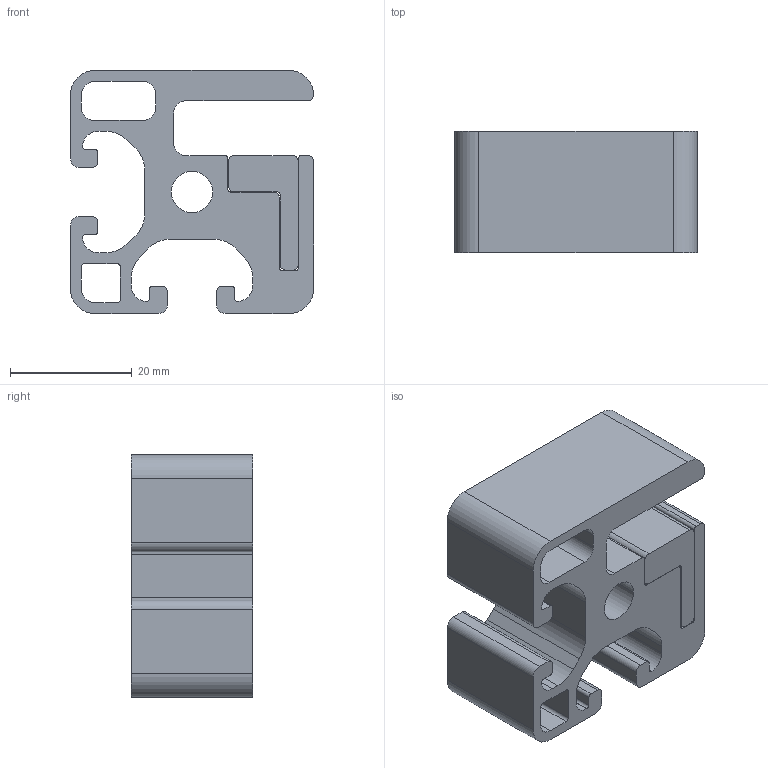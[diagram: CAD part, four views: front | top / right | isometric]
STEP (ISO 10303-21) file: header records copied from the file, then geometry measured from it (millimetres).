
FILE_DESCRIPTION(('STEP AP214'),'1');
FILE_NAME('cctmp_C2421085-151D-42D3-9F5F-A0D12C779567_2023_04_28_11_31_05_0895_33652..stp','2023-04-28T09:31:05',('item Industrietechnik GmbH'),('CADClick - www.CADClick.com'),'Spatial InterOp 3D',' ','unknown authorization');
FILE_SCHEMA(('AUTOMOTIVE_DESIGN'));
Length unit declared in the file: millimetre
Products named in the file (2): item_0019650_Clamp Profile 8 40x40_L=20; item_0019650_Clamp Profile 8 40x40_L=20_1
Assembly tree (1 placements, depth 2):
  item_0019650_Clamp Profile 8 40x40_L=20
    item_0019650_Clamp Profile 8 40x40_L=20_1
Bounding box: 40 x 20 x 40 mm (x, y, z)
Volume: 17191.5 mm3; surface area: 11026.2 mm2
Topology: 2 solids, 2 shells, 117 faces, 339 edges, 226 vertices
Faces by surface type: plane 59, cylinder 58
Entity records: 4894 total; most frequent: DIRECTION 693, CARTESIAN_POINT 684, ORIENTED_EDGE 678, EDGE_CURVE 339, AXIS2_PLACEMENT_3D 235, VERTEX_POINT 226, LINE 223, VECTOR 223
